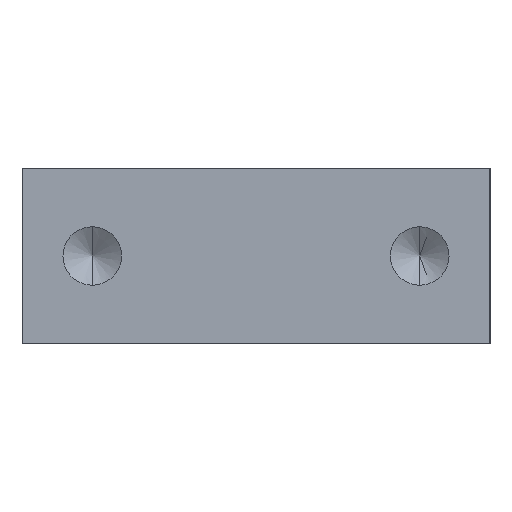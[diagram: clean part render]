
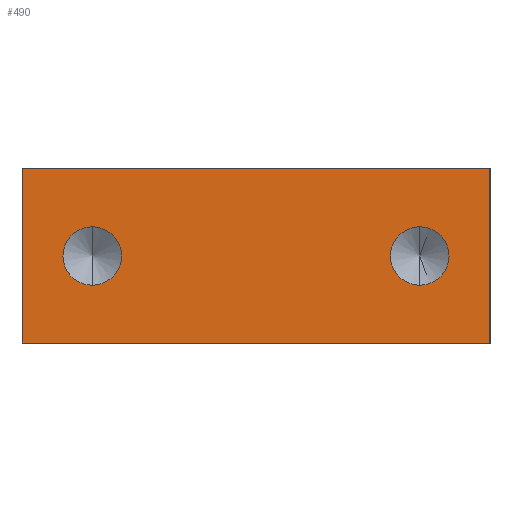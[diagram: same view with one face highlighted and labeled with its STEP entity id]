
A CAD part, left-side view. The second image highlights one B-rep face of the part: STEP entity #490.
In plain terms, the highlighted planar face has unit normal (-1, 0, 0).
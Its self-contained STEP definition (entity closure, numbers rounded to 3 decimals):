
#1 = VERTEX_POINT ( 'NONE', #324 ) ;
#4 = ORIENTED_EDGE ( 'NONE', *, *, #442, .F. ) ;
#51 = DIRECTION ( 'NONE',  ( 0., -1., 0. ) ) ;
#53 = DIRECTION ( 'NONE',  ( -1., 0., 0. ) ) ;
#54 = CARTESIAN_POINT ( 'NONE',  ( -50., -20., 0. ) ) ;
#61 = CARTESIAN_POINT ( 'NONE',  ( -50., -20., 15. ) ) ;
#63 = ORIENTED_EDGE ( 'NONE', *, *, #136, .T. ) ;
#84 = VERTEX_POINT ( 'NONE', #450 ) ;
#92 = DIRECTION ( 'NONE',  ( 0., 0., 1. ) ) ;
#94 = CARTESIAN_POINT ( 'NONE',  ( -50., -14., 7.5 ) ) ;
#95 = LINE ( 'NONE', #54, #203 ) ;
#104 = CARTESIAN_POINT ( 'NONE',  ( -50., -20., 0. ) ) ;
#116 = DIRECTION ( 'NONE',  ( 0., 0., -1. ) ) ;
#117 = EDGE_LOOP ( 'NONE', ( #167, #489 ) ) ;
#129 = LINE ( 'NONE', #267, #165 ) ;
#132 = PLANE ( 'NONE',  #168 ) ;
#136 = EDGE_CURVE ( 'NONE', #421, #264, #95, .T. ) ;
#150 = CARTESIAN_POINT ( 'NONE',  ( -50., -14., 10. ) ) ;
#151 = VERTEX_POINT ( 'NONE', #150 ) ;
#165 = VECTOR ( 'NONE', #495, 1000. ) ;
#167 = ORIENTED_EDGE ( 'NONE', *, *, #498, .F. ) ;
#168 = AXIS2_PLACEMENT_3D ( 'NONE', #187, #320, #317 ) ;
#170 = EDGE_LOOP ( 'NONE', ( #4, #516 ) ) ;
#187 = CARTESIAN_POINT ( 'NONE',  ( -50., -20., 15. ) ) ;
#189 = AXIS2_PLACEMENT_3D ( 'NONE', #358, #538, #455 ) ;
#195 = VECTOR ( 'NONE', #116, 1000. ) ;
#203 = VECTOR ( 'NONE', #226, 1000. ) ;
#204 = DIRECTION ( 'NONE',  ( -1., 0., 0. ) ) ;
#205 = ORIENTED_EDGE ( 'NONE', *, *, #510, .T. ) ;
#214 = LINE ( 'NONE', #350, #195 ) ;
#219 = EDGE_CURVE ( 'NONE', #1, #564, #567, .T. ) ;
#226 = DIRECTION ( 'NONE',  ( 0., -1., 0. ) ) ;
#228 = CARTESIAN_POINT ( 'NONE',  ( -50., -20., 15. ) ) ;
#237 = CIRCLE ( 'NONE', #565, 2.5 ) ;
#257 = VERTEX_POINT ( 'NONE', #61 ) ;
#264 = VERTEX_POINT ( 'NONE', #104 ) ;
#267 = CARTESIAN_POINT ( 'NONE',  ( -50., 20., 15. ) ) ;
#287 = CARTESIAN_POINT ( 'NONE',  ( -50., 14., 7.5 ) ) ;
#304 = CARTESIAN_POINT ( 'NONE',  ( -50., 20., 0. ) ) ;
#312 = DIRECTION ( 'NONE',  ( 0., 0., 1. ) ) ;
#317 = DIRECTION ( 'NONE',  ( 0., 0., -1. ) ) ;
#320 = DIRECTION ( 'NONE',  ( 1., 0., 0. ) ) ;
#324 = CARTESIAN_POINT ( 'NONE',  ( -50., 14., 5. ) ) ;
#326 = CIRCLE ( 'NONE', #399, 2.5 ) ;
#331 = CARTESIAN_POINT ( 'NONE',  ( -50., 14., 10. ) ) ;
#349 = EDGE_CURVE ( 'NONE', #257, #264, #214, .T. ) ;
#350 = CARTESIAN_POINT ( 'NONE',  ( -50., -20., 15. ) ) ;
#355 = CARTESIAN_POINT ( 'NONE',  ( -50., -14., 7.5 ) ) ;
#358 = CARTESIAN_POINT ( 'NONE',  ( -50., 14., 7.5 ) ) ;
#399 = AXIS2_PLACEMENT_3D ( 'NONE', #355, #491, #92 ) ;
#400 = LINE ( 'NONE', #228, #431 ) ;
#417 = ORIENTED_EDGE ( 'NONE', *, *, #349, .F. ) ;
#421 = VERTEX_POINT ( 'NONE', #304 ) ;
#431 = VECTOR ( 'NONE', #51, 1000. ) ;
#442 = EDGE_CURVE ( 'NONE', #564, #1, #505, .T. ) ;
#449 = FACE_OUTER_BOUND ( 'NONE', #453, .T. ) ;
#450 = CARTESIAN_POINT ( 'NONE',  ( -50., 20., 15. ) ) ;
#453 = EDGE_LOOP ( 'NONE', ( #63, #417, #523, #205 ) ) ;
#455 = DIRECTION ( 'NONE',  ( 0., 0., 1. ) ) ;
#485 = EDGE_CURVE ( 'NONE', #84, #257, #400, .T. ) ;
#489 = ORIENTED_EDGE ( 'NONE', *, *, #514, .F. ) ;
#490 = ADVANCED_FACE ( 'NONE', ( #536, #500, #449 ), #132, .F. ) ;
#491 = DIRECTION ( 'NONE',  ( -1., 0., 0. ) ) ;
#495 = DIRECTION ( 'NONE',  ( 0., 0., -1. ) ) ;
#498 = EDGE_CURVE ( 'NONE', #151, #566, #326, .T. ) ;
#500 = FACE_BOUND ( 'NONE', #117, .T. ) ;
#505 = CIRCLE ( 'NONE', #189, 2.5 ) ;
#510 = EDGE_CURVE ( 'NONE', #84, #421, #129, .T. ) ;
#512 = CARTESIAN_POINT ( 'NONE',  ( -50., -14., 5. ) ) ;
#514 = EDGE_CURVE ( 'NONE', #566, #151, #237, .T. ) ;
#516 = ORIENTED_EDGE ( 'NONE', *, *, #219, .F. ) ;
#523 = ORIENTED_EDGE ( 'NONE', *, *, #485, .F. ) ;
#533 = AXIS2_PLACEMENT_3D ( 'NONE', #287, #204, #554 ) ;
#536 = FACE_BOUND ( 'NONE', #170, .T. ) ;
#538 = DIRECTION ( 'NONE',  ( -1., 0., 0. ) ) ;
#554 = DIRECTION ( 'NONE',  ( 0., 0., 1. ) ) ;
#564 = VERTEX_POINT ( 'NONE', #331 ) ;
#565 = AXIS2_PLACEMENT_3D ( 'NONE', #94, #53, #312 ) ;
#566 = VERTEX_POINT ( 'NONE', #512 ) ;
#567 = CIRCLE ( 'NONE', #533, 2.5 ) ;
